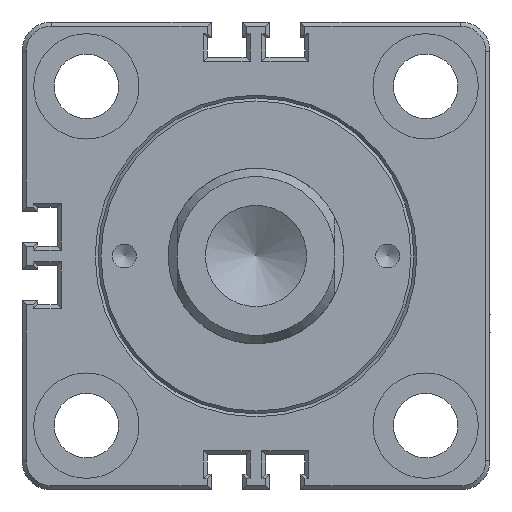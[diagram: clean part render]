
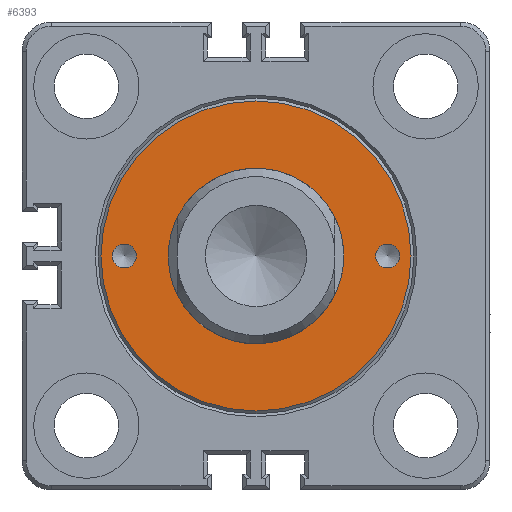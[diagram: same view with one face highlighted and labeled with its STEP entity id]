
A CAD part, front view. The second image highlights one B-rep face of the part: STEP entity #6393.
In plain terms, the highlighted planar face has unit normal (0, -1, 0).
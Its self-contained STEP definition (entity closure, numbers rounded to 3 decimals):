
#149=CIRCLE('',#6743,26.5);
#150=CIRCLE('',#6745,15.);
#151=CIRCLE('',#6747,2.05);
#152=CIRCLE('',#6748,2.05);
#274=PLANE('',#6746);
#1928=ORIENTED_EDGE('',*,*,#2892,.T.);
#1929=ORIENTED_EDGE('',*,*,#2891,.F.);
#1930=ORIENTED_EDGE('',*,*,#2893,.T.);
#1931=ORIENTED_EDGE('',*,*,#2890,.T.);
#2890=EDGE_CURVE('',#3384,#3384,#149,.T.);
#2891=EDGE_CURVE('',#3385,#3385,#150,.T.);
#2892=EDGE_CURVE('',#3386,#3386,#151,.T.);
#2893=EDGE_CURVE('',#3387,#3387,#152,.T.);
#3384=VERTEX_POINT('',#9713);
#3385=VERTEX_POINT('',#9716);
#3386=VERTEX_POINT('',#9719);
#3387=VERTEX_POINT('',#9721);
#3712=EDGE_LOOP('',(#1928));
#3713=EDGE_LOOP('',(#1929));
#3714=EDGE_LOOP('',(#1930));
#3715=EDGE_LOOP('',(#1931));
#4061=FACE_BOUND('',#3712,.T.);
#4062=FACE_BOUND('',#3713,.T.);
#4063=FACE_BOUND('',#3714,.T.);
#4064=FACE_BOUND('',#3715,.T.);
#6393=ADVANCED_FACE('',(#4061,#4062,#4063,#4064),#274,.T.);
#6743=AXIS2_PLACEMENT_3D('',#9712,#7612,#7613);
#6745=AXIS2_PLACEMENT_3D('',#9715,#7616,#7617);
#6746=AXIS2_PLACEMENT_3D('',#9717,#7618,#7619);
#6747=AXIS2_PLACEMENT_3D('',#9718,#7620,#7621);
#6748=AXIS2_PLACEMENT_3D('',#9720,#7622,#7623);
#7612=DIRECTION('',(0.,-1.,0.));
#7613=DIRECTION('',(0.,0.,-1.));
#7616=DIRECTION('',(0.,-1.,0.));
#7617=DIRECTION('',(1.,0.,0.));
#7618=DIRECTION('',(0.,-1.,0.));
#7619=DIRECTION('',(1.,0.,0.));
#7620=DIRECTION('',(0.,1.,0.));
#7621=DIRECTION('',(0.,0.,-1.));
#7622=DIRECTION('',(0.,1.,0.));
#7623=DIRECTION('',(0.,0.,-1.));
#9712=CARTESIAN_POINT('',(0.,0.,0.));
#9713=CARTESIAN_POINT('',(0.,0.,-26.5));
#9715=CARTESIAN_POINT('',(0.,0.,0.));
#9716=CARTESIAN_POINT('',(15.,0.,0.));
#9717=CARTESIAN_POINT('',(-35.,0.,35.));
#9718=CARTESIAN_POINT('',(22.5,0.,0.));
#9719=CARTESIAN_POINT('',(22.5,0.,-2.05));
#9720=CARTESIAN_POINT('',(-22.5,0.,0.));
#9721=CARTESIAN_POINT('',(-22.5,0.,-2.05));
